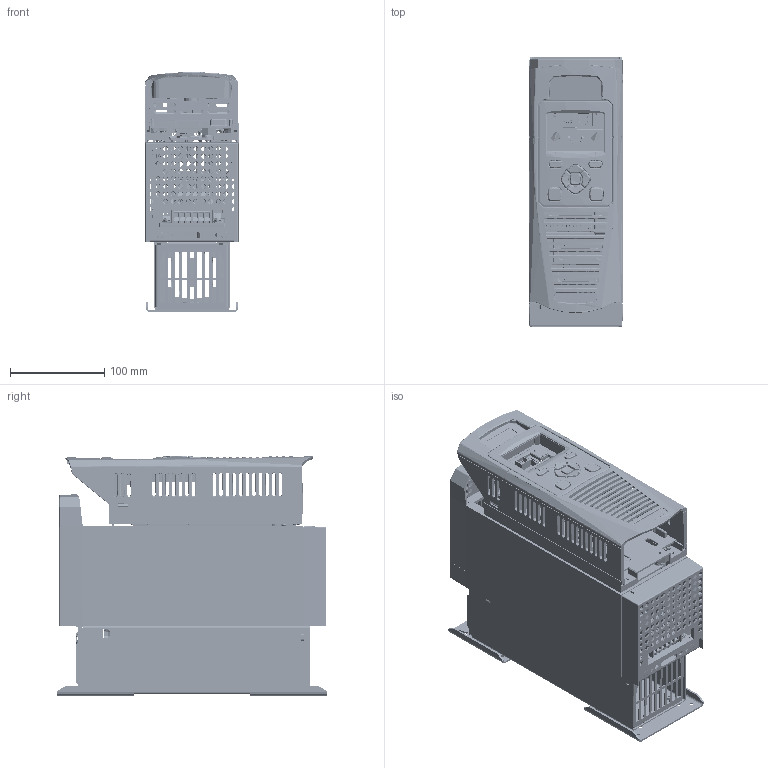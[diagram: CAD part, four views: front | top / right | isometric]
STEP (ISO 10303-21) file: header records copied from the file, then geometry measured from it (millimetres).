
FILE_DESCRIPTION(/* description */ ('brkt_mtg_9882_10_2thk0'),/* implementation_level */ '2;1');
FILE_NAME(/* name */ 'C:\1SSDE Vault\CAD\Users\Paul\AC30x_pdcts\AC30D\assy_pdct_szD_otln.stp',/* time_stamp */ '2015-11-16T15:31:04+00:00',/* author */ ('pw037365'),/* organization */ (''),/* preprocessor_version */ 'ST-DEVELOPER v15.2',/* originating_system */ 'Autodesk Inventor 2014',/* authorisation */ '');
FILE_SCHEMA (('AUTOMOTIVE_DESIGN { 1 0 10303 214 3 1 1 }'));
Products named in the file (26): brkt_mtg_9882_10_2thk0_BA501533_5; dct_fn_shtm_235080_72_BA501537_20; chss_base_277094_39_1thk2_BA501536_31; grd_dct_shtm_7771_12_BA501534_5; grd_fn_shtm_1x60_BA501535_9; cvr_fr_szD_BD501568_7; cvr_trm_lwr_szD_BD501569_v07c_nx09aug12_t1733_1; cvr_trm_upr_szD_BD501570v05_nx20feb13_1; spcr_gnd_m4_9d8_4h0_BG501916_3; BB501373v26a_hsng_cst_bk; BB501372v22_hsng_cst_fr; BD501377U000v25_CVR_FR_UPPER; BD501376U000v18_CVR_FR_LWR_QUALIFICATION; cvr_top_dspl_BD501712_1; dspl_ky_rbbr_9p_78w; oass_gkp_7001; CI501525U006; CI501526U004; skt_th_45deg_rj45_21h_CI501527_1; skt_s_ra_rj11_4w_12h_CI501543_1; skt_s_ra_2x3_6h_2p54_CI501545U006_1; hsng_assy_vcm_otln; scr_assy_tpnsprflt_m4_16; CI501363U003; CI501363U004; assy_pdct_szD_otln
Bounding box: 100.22 x 286 x 254.25 mm (x, y, z)
Volume: 791190 mm3; surface area: 784588.1 mm2
Topology: 31 solids, 34 shells, 11607 faces, 31664 edges, 20099 vertices
Faces by surface type: plane 6233, cylinder 2414, cone 1212, bspline 1096, torus 364, sphere 288
Full cylindrical faces by diameter (mm): 0.457 x3, 0.8 x2, 1.2 x28, 1.3 x10, 2 x13, 2.7 x2, 3.2 x2, 3.242 x6, 3.346 x1, 3.4 x4, 3.492 x1, 3.5 x33, 3.7 x8, 3.9 x7, 4 x24, 4.4 x16, 4.5 x27, 4.6 x2, 4.7 x2, 4.8 x6, 5 x12, 5.9 x1, 6.5 x2, 7 x2, 7.1 x6, 8 x26, 8.3 x1, 9 x4, 9.8 x2, 10 x3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
Entity records: 373694 total; most frequent: CARTESIAN_POINT 120142, ORIENTED_EDGE 52222, DIRECTION 50401, EDGE_CURVE 26095, AXIS2_PLACEMENT_3D 17617, VERTEX_POINT 16982, LINE 15167, VECTOR 15167
